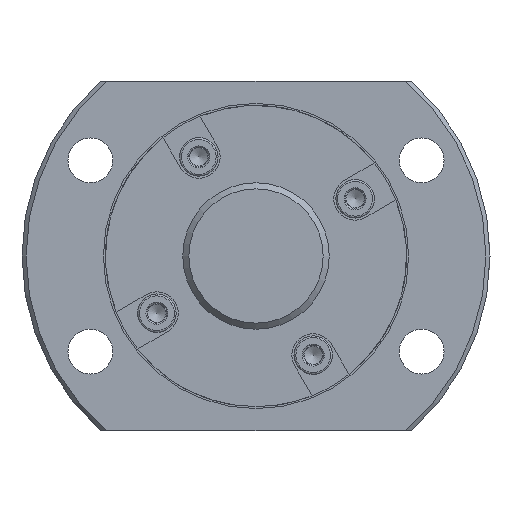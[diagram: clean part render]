
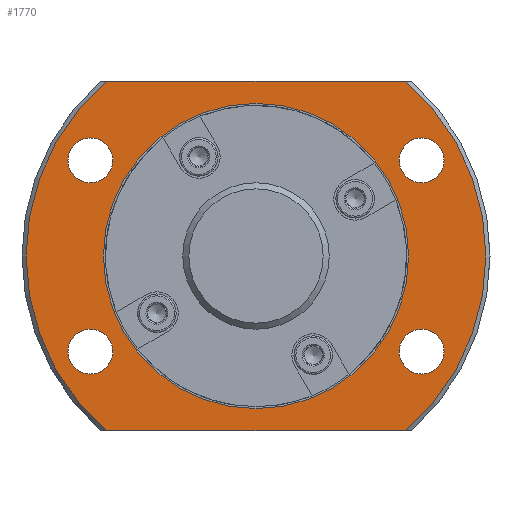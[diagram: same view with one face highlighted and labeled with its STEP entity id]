
A CAD part, left-side view. The second image highlights one B-rep face of the part: STEP entity #1770.
In plain terms, the highlighted planar face has unit normal (-1, 0, 0).
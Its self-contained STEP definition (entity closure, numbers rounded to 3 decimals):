
#81=LINE('',#2996,#193);
#82=LINE('',#2997,#194);
#193=VECTOR('',#2270,1000.);
#194=VECTOR('',#2271,1000.);
#454=ORIENTED_EDGE('',*,*,#908,.T.);
#455=ORIENTED_EDGE('',*,*,#909,.F.);
#456=ORIENTED_EDGE('',*,*,#888,.F.);
#457=ORIENTED_EDGE('',*,*,#910,.F.);
#458=ORIENTED_EDGE('',*,*,#906,.F.);
#459=ORIENTED_EDGE('',*,*,#911,.T.);
#460=ORIENTED_EDGE('',*,*,#912,.T.);
#461=ORIENTED_EDGE('',*,*,#913,.T.);
#462=ORIENTED_EDGE('',*,*,#914,.T.);
#888=EDGE_CURVE('',#1120,#1119,#1247,.T.);
#906=EDGE_CURVE('',#1134,#1135,#1260,.T.);
#908=EDGE_CURVE('',#1136,#1136,#1261,.T.);
#909=EDGE_CURVE('',#1119,#1134,#81,.T.);
#910=EDGE_CURVE('',#1135,#1120,#82,.T.);
#911=EDGE_CURVE('',#1137,#1137,#1262,.T.);
#912=EDGE_CURVE('',#1138,#1138,#1263,.T.);
#913=EDGE_CURVE('',#1139,#1139,#1264,.T.);
#914=EDGE_CURVE('',#1140,#1140,#1265,.T.);
#1119=VERTEX_POINT('',#2930);
#1120=VERTEX_POINT('',#2935);
#1134=VERTEX_POINT('',#2986);
#1135=VERTEX_POINT('',#2988);
#1136=VERTEX_POINT('',#2995);
#1137=VERTEX_POINT('',#2999);
#1138=VERTEX_POINT('',#3001);
#1139=VERTEX_POINT('',#3003);
#1140=VERTEX_POINT('',#3005);
#1247=CIRCLE('',#1935,56.5);
#1260=CIRCLE('',#1958,56.5);
#1261=CIRCLE('',#1960,37.5);
#1262=CIRCLE('',#1961,5.5);
#1263=CIRCLE('',#1962,5.5);
#1264=CIRCLE('',#1963,5.5);
#1265=CIRCLE('',#1964,5.5);
#1360=EDGE_LOOP('',(#454));
#1361=EDGE_LOOP('',(#455,#456,#457,#458));
#1362=EDGE_LOOP('',(#459));
#1363=EDGE_LOOP('',(#460));
#1364=EDGE_LOOP('',(#461));
#1365=EDGE_LOOP('',(#462));
#1536=FACE_BOUND('',#1360,.T.);
#1537=FACE_BOUND('',#1361,.T.);
#1538=FACE_BOUND('',#1362,.T.);
#1539=FACE_BOUND('',#1363,.T.);
#1540=FACE_BOUND('',#1364,.T.);
#1541=FACE_BOUND('',#1365,.T.);
#1676=PLANE('',#1959);
#1770=ADVANCED_FACE('',(#1536,#1537,#1538,#1539,#1540,#1541),#1676,.T.);
#1935=AXIS2_PLACEMENT_3D('',#2936,#2216,#2217);
#1958=AXIS2_PLACEMENT_3D('',#2987,#2264,#2265);
#1959=AXIS2_PLACEMENT_3D('',#2993,#2266,#2267);
#1960=AXIS2_PLACEMENT_3D('',#2994,#2268,#2269);
#1961=AXIS2_PLACEMENT_3D('',#2998,#2272,#2273);
#1962=AXIS2_PLACEMENT_3D('',#3000,#2274,#2275);
#1963=AXIS2_PLACEMENT_3D('',#3002,#2276,#2277);
#1964=AXIS2_PLACEMENT_3D('',#3004,#2278,#2279);
#2216=DIRECTION('',(1.,0.,0.));
#2217=DIRECTION('',(0.,0.,-1.));
#2264=DIRECTION('',(1.,0.,0.));
#2265=DIRECTION('',(0.,0.,-1.));
#2266=DIRECTION('',(-1.,0.,0.));
#2267=DIRECTION('',(0.,0.,1.));
#2268=DIRECTION('',(1.,0.,0.));
#2269=DIRECTION('',(0.,0.,-1.));
#2270=DIRECTION('',(0.,1.,0.));
#2271=DIRECTION('',(0.,-1.,0.));
#2272=DIRECTION('',(1.,0.,0.));
#2273=DIRECTION('',(0.,0.,-1.));
#2274=DIRECTION('',(1.,0.,0.));
#2275=DIRECTION('',(0.,0.,-1.));
#2276=DIRECTION('',(1.,0.,0.));
#2277=DIRECTION('',(0.,0.,-1.));
#2278=DIRECTION('',(1.,0.,0.));
#2279=DIRECTION('',(0.,0.,-1.));
#2930=CARTESIAN_POINT('',(17.,-36.65,-43.));
#2935=CARTESIAN_POINT('',(17.,-36.65,43.));
#2936=CARTESIAN_POINT('',(17.,0.,0.));
#2986=CARTESIAN_POINT('',(17.,36.65,-43.));
#2987=CARTESIAN_POINT('',(17.,0.,0.));
#2988=CARTESIAN_POINT('',(17.,36.65,43.));
#2993=CARTESIAN_POINT('',(17.,56.5,0.));
#2994=CARTESIAN_POINT('',(17.,0.,0.));
#2995=CARTESIAN_POINT('',(17.,0.,-37.5));
#2996=CARTESIAN_POINT('',(17.,56.5,-43.));
#2997=CARTESIAN_POINT('',(17.,56.5,43.));
#2998=CARTESIAN_POINT('',(17.,40.703,-23.5));
#2999=CARTESIAN_POINT('',(17.,40.703,-29.));
#3000=CARTESIAN_POINT('',(17.,-40.703,23.5));
#3001=CARTESIAN_POINT('',(17.,-40.703,18.));
#3002=CARTESIAN_POINT('',(17.,-40.703,-23.5));
#3003=CARTESIAN_POINT('',(17.,-40.703,-29.));
#3004=CARTESIAN_POINT('',(17.,40.703,23.5));
#3005=CARTESIAN_POINT('',(17.,40.703,18.));
